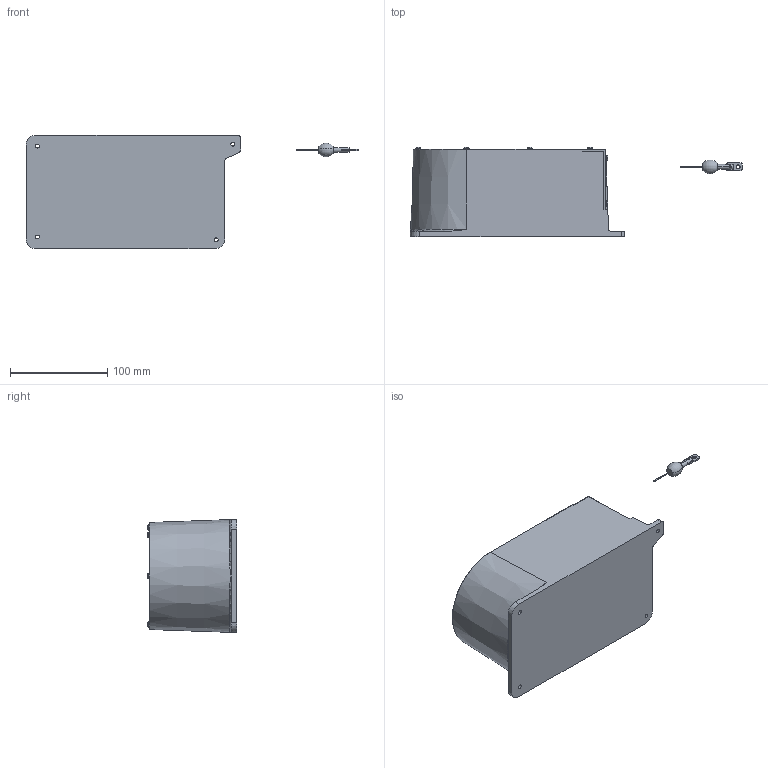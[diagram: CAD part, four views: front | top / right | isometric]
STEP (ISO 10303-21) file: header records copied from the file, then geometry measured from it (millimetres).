
FILE_DESCRIPTION (( 'STEP AP214' ), '1' );
FILE_NAME ('DL-07_Assem1.STEP', '2024-06-17T04:31:33', ( '' ), ( '' ), 'SwSTEP 2.0', 'SolidWorks 2023', '' );
FILE_SCHEMA (( 'AUTOMOTIVE_DESIGN' ));
Length unit declared in the file: millimetre
Products named in the file (6): SCREW M3 X6 MM; DL-07_Part1; DL-07_Part2; DL-07_Assem1; DL-07_Part3; DL-07_Part4
Assembly tree (13 placements, depth 2):
  DL-07_Assem1
    DL-07_Part1
    DL-07_Part2
    DL-07_Part3
    DL-07_Part4
    SCREW M3 X6 MM  x9
Bounding box: 341.57 x 92 x 116.5 mm (x, y, z)
Volume: 1726898.6 mm3; surface area: 108146.3 mm2
Topology: 14 solids, 14 shells, 368 faces, 1052 edges, 727 vertices
Faces by surface type: plane 161, cylinder 88, bspline 46, cone 46, torus 27
Entity records: 8236 total; most frequent: CARTESIAN_POINT 3445, DIRECTION 988, ORIENTED_EDGE 946, EDGE_CURVE 473, AXIS2_PLACEMENT_3D 384, VERTEX_POINT 311, VECTOR 220, LINE 220
